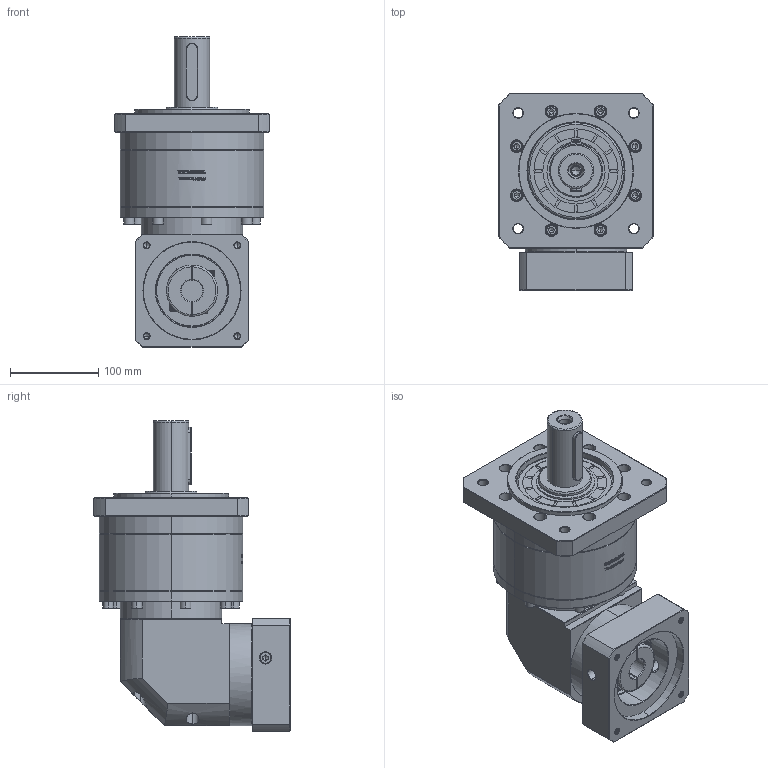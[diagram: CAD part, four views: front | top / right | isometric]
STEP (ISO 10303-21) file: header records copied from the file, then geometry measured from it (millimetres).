
FILE_DESCRIPTION (( 'STEP AP214' ), '1' );
FILE_NAME ('ZFR160A-D40-L2-24-110-145-M8.step', '2023-03-25T01:55:33', ( '' ), ( '' ), 'SwSTEP 2.0', 'SolidWorks 2016', '' );
FILE_SCHEMA (( 'AUTOMOTIVE_DESIGN' ));
Length unit declared in the file: millimetre
Products named in the file (1): ZFR160A-D40-L2-24-110-145-M8
Bounding box: 175 x 222.4 x 351.2 mm (x, y, z)
Volume: 5105614.4 mm3; surface area: 351664.7 mm2
Topology: 6 solids, 6 shells, 2783 faces, 7282 edges, 4672 vertices
Faces by surface type: plane 1373, bspline 497, cylinder 496, cone 371, torus 46
Entity records: 150311 total; most frequent: CARTESIAN_POINT 55567, ORIENTED_EDGE 14456, DIRECTION 11429, EDGE_CURVE 7228, VERTEX_POINT 4672, LINE 4503, VECTOR 4503, AXIS2_PLACEMENT_3D 3463
